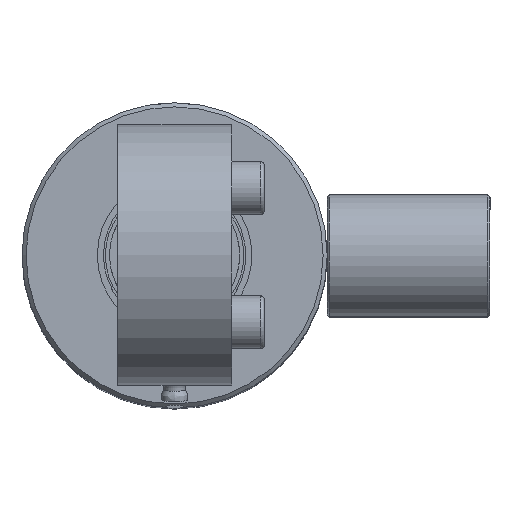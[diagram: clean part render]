
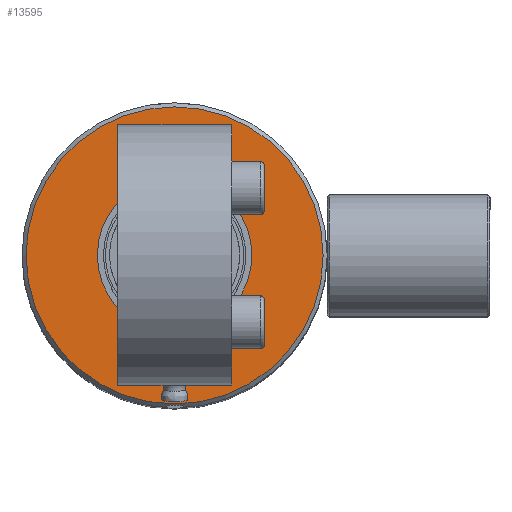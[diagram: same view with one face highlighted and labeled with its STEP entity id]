
A CAD part, top view. The second image highlights one B-rep face of the part: STEP entity #13595.
In plain terms, the highlighted planar face has unit normal (0, 0, 1) as drawn and (-1, 0, 0) by its records, which use the part's own axes.
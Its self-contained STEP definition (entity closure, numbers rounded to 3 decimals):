
#1467=FACE_BOUND('',#3274,.T.);
#1786=PLANE('',#14300);
#2464=FACE_OUTER_BOUND('',#3273,.T.);
#3273=EDGE_LOOP('',(#12292));
#3274=EDGE_LOOP('',(#12293));
#5442=CIRCLE('',#14299,36.5);
#5443=CIRCLE('',#14301,19.);
#6715=VERTEX_POINT('',#34365);
#6716=VERTEX_POINT('',#34369);
#8608=EDGE_CURVE('',#6715,#6715,#5442,.T.);
#8609=EDGE_CURVE('',#6716,#6716,#5443,.T.);
#12292=ORIENTED_EDGE('',*,*,#8608,.F.);
#12293=ORIENTED_EDGE('',*,*,#8609,.T.);
#13595=ADVANCED_FACE('',(#2464,#1467),#1786,.T.);
#14299=AXIS2_PLACEMENT_3D('',#34367,#16236,#16237);
#14300=AXIS2_PLACEMENT_3D('',#34368,#16238,#16239);
#14301=AXIS2_PLACEMENT_3D('',#34370,#16240,#16241);
#16236=DIRECTION('center_axis',(1.,0.,0.));
#16237=DIRECTION('ref_axis',(0.,-1.,0.));
#16238=DIRECTION('center_axis',(-1.,0.,0.));
#16239=DIRECTION('ref_axis',(0.,0.,1.));
#16240=DIRECTION('center_axis',(1.,0.,0.));
#16241=DIRECTION('ref_axis',(0.,0.,-1.));
#34365=CARTESIAN_POINT('',(10.,36.5,0.));
#34367=CARTESIAN_POINT('Origin',(10.,0.,0.));
#34368=CARTESIAN_POINT('Origin',(10.,37.5,0.));
#34369=CARTESIAN_POINT('',(10.,-19.,0.));
#34370=CARTESIAN_POINT('Origin',(10.,0.,0.));
